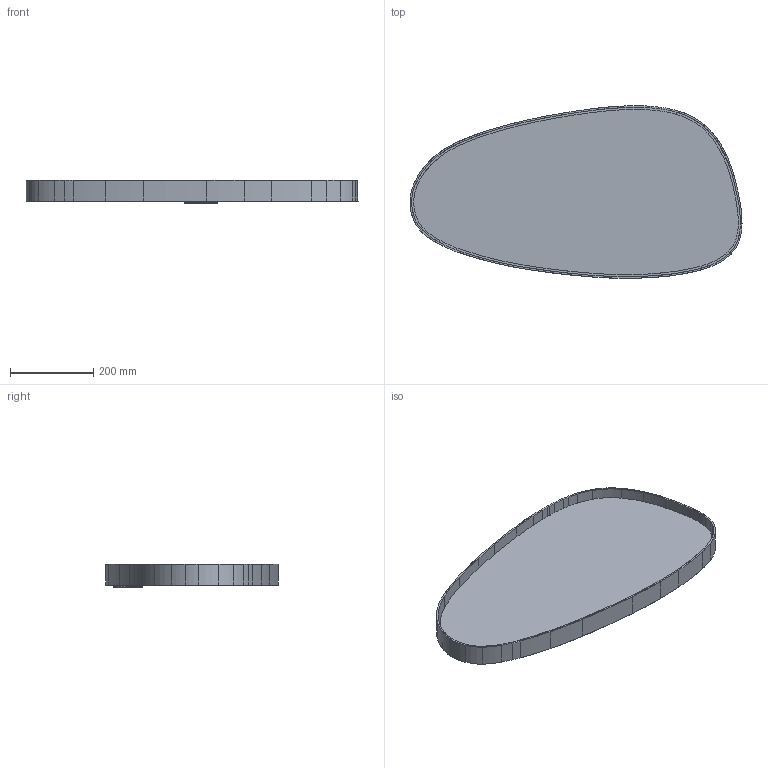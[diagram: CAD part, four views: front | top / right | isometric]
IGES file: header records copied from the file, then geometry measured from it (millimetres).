
Start section: SolidWorks IGES file using analytic representation for surfaces
Global section: file name: C:\VaultDeCastelli\Progetti\DC\PESO LEGGERO PRODOTTI\Ale\DeCastelli-3D-Syro Mirror 80.igs; native system: SolidWorks 2022; preprocessor: SolidWorks 2022; author: AlessandroP; date: 240726.104159; units: millimetre
Bounding box: 799.53 x 415.53 x 56 mm (x, y, z)
Surface area: 1109687.4 mm2 (no closed solid volume)
Topology: 0 solids, 0 shells, 348 faces, 3724 edges, 3724 vertices
Faces by surface type: revolution 180, bspline 168
